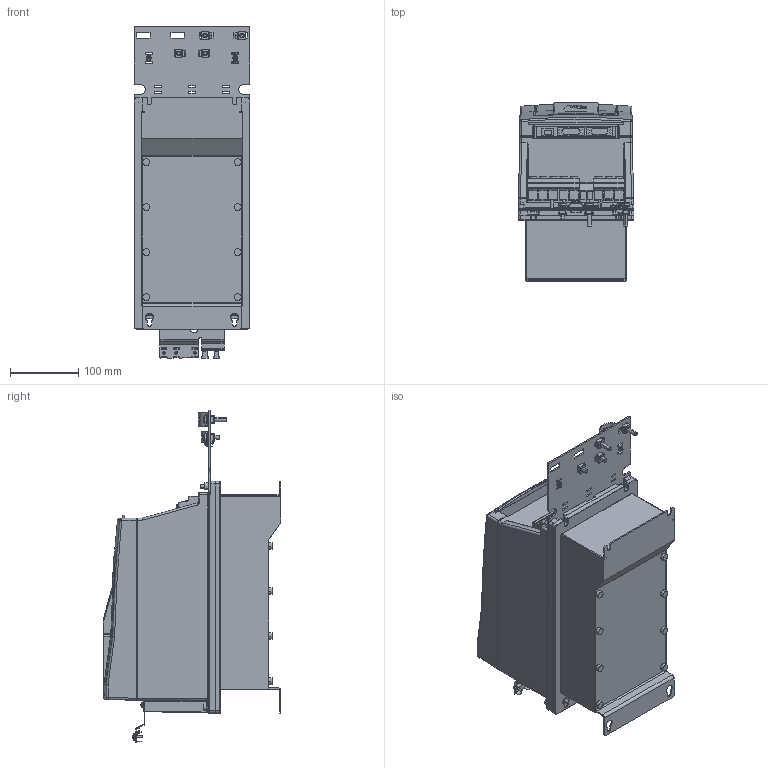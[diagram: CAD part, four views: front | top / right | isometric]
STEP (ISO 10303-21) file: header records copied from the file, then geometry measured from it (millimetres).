
FILE_DESCRIPTION (( 'STEP AP214' ), '1' );
FILE_NAME ('10036505_000.STEP', '2021-01-18T08:57:36', ( '' ), ( '' ), 'SwSTEP 2.0', 'SolidWorks 2019', '' );
FILE_SCHEMA (( 'AUTOMOTIVE_DESIGN' ));
Length unit declared in the file: millimetre
Products named in the file (14): 10063309_000; 10036504_000_Leistungsteil TR0 (Kundenmodell); 10063222_000; 10061030_000_Kundenmodell; 10059764_000_Blindabdeckung (Kundenmodell); 10001531_000; 10035735_000_Kundenmodell; 10059765_000; 10040482_000_Kundenmodell; 10060393_000; 10036505_000; 10058413_000; 10060392_000; 10047114_000_Kundenmodell
Assembly tree (14 placements, depth 4):
  10036505_000
    10036504_000_Leistungsteil TR0 (Kundenmodell)
      10060392_000
    10040482_000_Kundenmodell
      10060393_000
    10035735_000_Kundenmodell
      10059764_000_Blindabdeckung (Kundenmodell)
        10059765_000
      10058413_000
    10061030_000_Kundenmodell
      10063309_000
    10047114_000_Kundenmodell
      10063222_000
    10001531_000  x2
Bounding box: 170 x 260.9 x 486.8 mm (x, y, z)
Volume: 10645404.7 mm3; surface area: 696822.7 mm2
Topology: 20 solids, 27 shells, 3233 faces, 8479 edges, 5365 vertices
Faces by surface type: plane 1531, cylinder 1072, bspline 345, cone 113, torus 106, sphere 66
Entity records: 111982 total; most frequent: CARTESIAN_POINT 31033, ORIENTED_EDGE 16650, DIRECTION 15194, EDGE_CURVE 8325, VERTEX_POINT 5307, AXIS2_PLACEMENT_3D 5263, LINE 4668, VECTOR 4668
